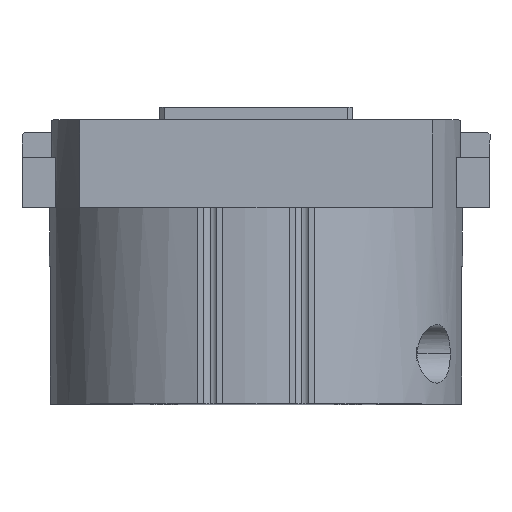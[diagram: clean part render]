
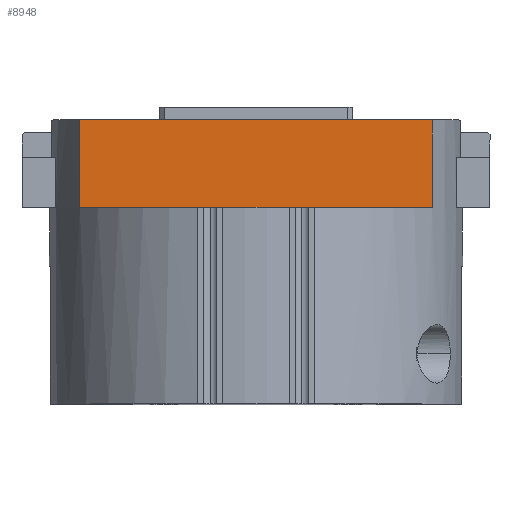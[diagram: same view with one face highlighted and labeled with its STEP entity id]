
A CAD part, top view. The second image highlights one B-rep face of the part: STEP entity #8948.
In plain terms, the highlighted planar face has unit normal (0, 0, 1).
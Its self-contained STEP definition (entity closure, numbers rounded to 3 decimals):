
#3820 = CARTESIAN_POINT ( 'NONE',  ( 42.122, 68., 26. ) ) ;
#5124 = CARTESIAN_POINT ( 'NONE',  ( -42.122, 68., 26. ) ) ;
#5814 = AXIS2_PLACEMENT_3D ( 'NONE', #63375, #17966, #70964 ) ;
#8948 = ADVANCED_FACE ( 'NONE', ( #89714 ), #29306, .F. ) ;
#9047 = EDGE_CURVE ( 'NONE', #48092, #40222, #11545, .T. ) ;
#9358 = EDGE_CURVE ( 'NONE', #26377, #49684, #84963, .T. ) ;
#11545 = LINE ( 'NONE', #59045, #92148 ) ;
#16261 = CARTESIAN_POINT ( 'NONE',  ( 0., 68., 26. ) ) ;
#17966 = DIRECTION ( 'NONE',  ( 0., 0., -1. ) ) ;
#26243 = EDGE_CURVE ( 'NONE', #49684, #40222, #56356, .T. ) ;
#26377 = VERTEX_POINT ( 'NONE', #5124 ) ;
#26932 = VECTOR ( 'NONE', #55648, 1000. ) ;
#28056 = CARTESIAN_POINT ( 'NONE',  ( -42.122, 47., 26. ) ) ;
#28942 = LINE ( 'NONE', #38133, #66882 ) ;
#29306 = PLANE ( 'NONE',  #5814 ) ;
#32013 = ORIENTED_EDGE ( 'NONE', *, *, #9358, .F. ) ;
#32551 = CARTESIAN_POINT ( 'NONE',  ( 42.122, 68., 26. ) ) ;
#38133 = CARTESIAN_POINT ( 'NONE',  ( -42.122, 68., 26. ) ) ;
#40222 = VERTEX_POINT ( 'NONE', #71144 ) ;
#44037 = ORIENTED_EDGE ( 'NONE', *, *, #26243, .F. ) ;
#45740 = DIRECTION ( 'NONE',  ( 0., 1., 0. ) ) ;
#48092 = VERTEX_POINT ( 'NONE', #28056 ) ;
#49684 = VERTEX_POINT ( 'NONE', #32551 ) ;
#49760 = ORIENTED_EDGE ( 'NONE', *, *, #9047, .T. ) ;
#51399 = DIRECTION ( 'NONE',  ( 1., 0., 0. ) ) ;
#55648 = DIRECTION ( 'NONE',  ( 1., 0., 0. ) ) ;
#56356 = LINE ( 'NONE', #3820, #58753 ) ;
#56815 = DIRECTION ( 'NONE',  ( 0., -1., 0. ) ) ;
#58753 = VECTOR ( 'NONE', #56815, 1000. ) ;
#59045 = CARTESIAN_POINT ( 'NONE',  ( -49.5, 47., 26. ) ) ;
#60691 = ORIENTED_EDGE ( 'NONE', *, *, #80799, .F. ) ;
#63375 = CARTESIAN_POINT ( 'NONE',  ( -49.5, 72.957, 26. ) ) ;
#66882 = VECTOR ( 'NONE', #45740, 1000. ) ;
#70964 = DIRECTION ( 'NONE',  ( 0., 1., 0. ) ) ;
#71144 = CARTESIAN_POINT ( 'NONE',  ( 42.122, 47., 26. ) ) ;
#74909 = EDGE_LOOP ( 'NONE', ( #60691, #49760, #44037, #32013 ) ) ;
#80799 = EDGE_CURVE ( 'NONE', #48092, #26377, #28942, .T. ) ;
#84963 = LINE ( 'NONE', #16261, #26932 ) ;
#89714 = FACE_OUTER_BOUND ( 'NONE', #74909, .T. ) ;
#92148 = VECTOR ( 'NONE', #51399, 1000. ) ;
